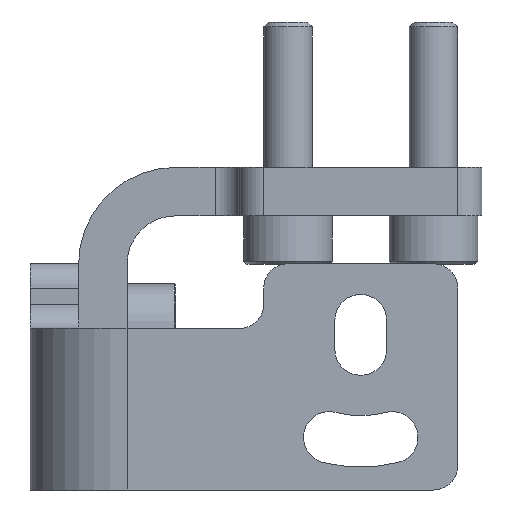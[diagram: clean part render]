
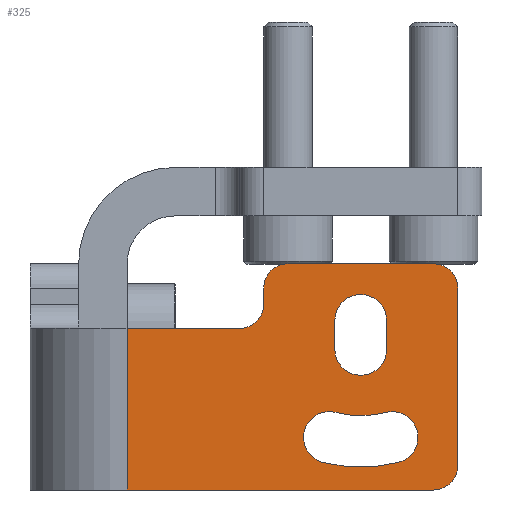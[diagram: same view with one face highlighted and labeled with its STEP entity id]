
A CAD part, front view. The second image highlights one B-rep face of the part: STEP entity #325.
In plain terms, the highlighted planar face has unit normal (0, -1, 0) as drawn and (0, 0, 1) by its records, which use the part's own axes.
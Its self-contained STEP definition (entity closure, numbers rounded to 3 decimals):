
#325 = ADVANCED_FACE( '', ( #525, #526, #527 ), #528, .F. );
#525 = FACE_BOUND( '', #789, .T. );
#526 = FACE_OUTER_BOUND( '', #790, .T. );
#527 = FACE_BOUND( '', #791, .T. );
#528 = PLANE( '', #792 );
#789 = EDGE_LOOP( '', ( #1333, #1334, #1335, #1336 ) );
#790 = EDGE_LOOP( '', ( #1337, #1338, #1339, #1340, #1341, #1342, #1343, #1344, #1345, #1346 ) );
#791 = EDGE_LOOP( '', ( #1347, #1348, #1349, #1350 ) );
#792 = AXIS2_PLACEMENT_3D( '', #1351, #1352, #1353 );
#1333 = ORIENTED_EDGE( '', *, *, #1819, .F. );
#1334 = ORIENTED_EDGE( '', *, *, #1820, .F. );
#1335 = ORIENTED_EDGE( '', *, *, #1821, .T. );
#1336 = ORIENTED_EDGE( '', *, *, #1822, .F. );
#1337 = ORIENTED_EDGE( '', *, *, #1823, .F. );
#1338 = ORIENTED_EDGE( '', *, *, #1824, .T. );
#1339 = ORIENTED_EDGE( '', *, *, #1825, .T. );
#1340 = ORIENTED_EDGE( '', *, *, #1826, .T. );
#1341 = ORIENTED_EDGE( '', *, *, #1827, .T. );
#1342 = ORIENTED_EDGE( '', *, *, #1828, .T. );
#1343 = ORIENTED_EDGE( '', *, *, #1829, .T. );
#1344 = ORIENTED_EDGE( '', *, *, #1830, .F. );
#1345 = ORIENTED_EDGE( '', *, *, #1831, .T. );
#1346 = ORIENTED_EDGE( '', *, *, #1832, .F. );
#1347 = ORIENTED_EDGE( '', *, *, #1815, .F. );
#1348 = ORIENTED_EDGE( '', *, *, #1833, .F. );
#1349 = ORIENTED_EDGE( '', *, *, #1834, .F. );
#1350 = ORIENTED_EDGE( '', *, *, #1817, .F. );
#1351 = CARTESIAN_POINT( '', ( -23.466, 3., 31.466 ) );
#1352 = DIRECTION( '', ( 0., 0., -1. ) );
#1353 = DIRECTION( '', ( -1., 0., 0. ) );
#1815 = EDGE_CURVE( '', #2150, #2152, #2153, .T. );
#1817 = EDGE_CURVE( '', #2152, #2155, #2156, .T. );
#1819 = EDGE_CURVE( '', #2158, #2159, #2160, .T. );
#1820 = EDGE_CURVE( '', #2161, #2158, #2162, .T. );
#1821 = EDGE_CURVE( '', #2161, #2163, #2164, .T. );
#1822 = EDGE_CURVE( '', #2159, #2163, #2165, .T. );
#1823 = EDGE_CURVE( '', #2166, #2167, #2168, .T. );
#1824 = EDGE_CURVE( '', #2166, #2169, #2170, .F. );
#1825 = EDGE_CURVE( '', #2169, #2171, #2172, .T. );
#1826 = EDGE_CURVE( '', #2171, #2173, #2174, .F. );
#1827 = EDGE_CURVE( '', #2173, #2175, #2176, .T. );
#1828 = EDGE_CURVE( '', #2175, #2177, #2178, .F. );
#1829 = EDGE_CURVE( '', #2177, #2179, #2180, .T. );
#1830 = EDGE_CURVE( '', #2181, #2179, #2182, .F. );
#1831 = EDGE_CURVE( '', #2181, #2183, #2184, .T. );
#1832 = EDGE_CURVE( '', #2167, #2183, #2185, .T. );
#1833 = EDGE_CURVE( '', #2186, #2150, #2187, .T. );
#1834 = EDGE_CURVE( '', #2155, #2186, #2188, .T. );
#2150 = VERTEX_POINT( '', #2620 );
#2152 = VERTEX_POINT( '', #2623 );
#2153 = CIRCLE( '', #2624, 1.6 );
#2155 = VERTEX_POINT( '', #2627 );
#2156 = LINE( '', #2628, #2629 );
#2158 = VERTEX_POINT( '', #2632 );
#2159 = VERTEX_POINT( '', #2633 );
#2160 = CIRCLE( '', #2634, 9.1 );
#2161 = VERTEX_POINT( '', #2635 );
#2162 = CIRCLE( '', #2636, 1.6 );
#2163 = VERTEX_POINT( '', #2637 );
#2164 = CIRCLE( '', #2638, 5.9 );
#2165 = CIRCLE( '', #2639, 1.6 );
#2166 = VERTEX_POINT( '', #2640 );
#2167 = VERTEX_POINT( '', #2641 );
#2168 = LINE( '', #2642, #2643 );
#2169 = VERTEX_POINT( '', #2644 );
#2170 = CIRCLE( '', #2645, 1.5 );
#2171 = VERTEX_POINT( '', #2646 );
#2172 = LINE( '', #2647, #2648 );
#2173 = VERTEX_POINT( '', #2649 );
#2174 = CIRCLE( '', #2650, 1.5 );
#2175 = VERTEX_POINT( '', #2651 );
#2176 = LINE( '', #2652, #2653 );
#2177 = VERTEX_POINT( '', #2654 );
#2178 = CIRCLE( '', #2655, 1.5 );
#2179 = VERTEX_POINT( '', #2656 );
#2180 = LINE( '', #2657, #2658 );
#2181 = VERTEX_POINT( '', #2659 );
#2182 = CIRCLE( '', #2660, 1.5 );
#2183 = VERTEX_POINT( '', #2661 );
#2184 = LINE( '', #2662, #2663 );
#2185 = LINE( '', #2664, #2665 );
#2186 = VERTEX_POINT( '', #2666 );
#2187 = LINE( '', #2667, #2668 );
#2188 = CIRCLE( '', #2669, 1.6 );
#2620 = CARTESIAN_POINT( '', ( -15.866, -5.7, 31.466 ) );
#2623 = CARTESIAN_POINT( '', ( -19.066, -5.7, 31.466 ) );
#2624 = AXIS2_PLACEMENT_3D( '', #3107, #3108, #3109 );
#2627 = CARTESIAN_POINT( '', ( -19.066, -7.5, 31.466 ) );
#2628 = CARTESIAN_POINT( '', ( -19.066, -5.7, 31.466 ) );
#2629 = VECTOR( '', #3111, 1000. );
#2632 = CARTESIAN_POINT( '', ( -15.123, 1.293, 31.466 ) );
#2633 = CARTESIAN_POINT( '', ( -19.821, 1.29, 31.466 ) );
#2634 = AXIS2_PLACEMENT_3D( '', #3113, #3114, #3115 );
#2635 = CARTESIAN_POINT( '', ( -15.939, -1.801, 31.466 ) );
#2636 = AXIS2_PLACEMENT_3D( '', #3116, #3117, #3118 );
#2637 = CARTESIAN_POINT( '', ( -19.001, -1.803, 31.466 ) );
#2638 = AXIS2_PLACEMENT_3D( '', #3119, #3120, #3121 );
#2639 = AXIS2_PLACEMENT_3D( '', #3122, #3123, #3124 );
#2640 = CARTESIAN_POINT( '', ( -21.966, 3., 31.466 ) );
#2641 = CARTESIAN_POINT( '', ( -3., 3., 31.466 ) );
#2642 = CARTESIAN_POINT( '', ( -23.466, 3., 31.466 ) );
#2643 = VECTOR( '', #3125, 1000. );
#2644 = CARTESIAN_POINT( '', ( -23.466, 1.5, 31.466 ) );
#2645 = AXIS2_PLACEMENT_3D( '', #3126, #3127, #3128 );
#2646 = CARTESIAN_POINT( '', ( -23.466, -9.5, 31.466 ) );
#2647 = CARTESIAN_POINT( '', ( -23.466, 3., 31.466 ) );
#2648 = VECTOR( '', #3129, 1000. );
#2649 = CARTESIAN_POINT( '', ( -21.966, -11., 31.466 ) );
#2650 = AXIS2_PLACEMENT_3D( '', #3130, #3131, #3132 );
#2651 = CARTESIAN_POINT( '', ( -12.966, -11., 31.466 ) );
#2652 = CARTESIAN_POINT( '', ( -23.466, -11., 31.466 ) );
#2653 = VECTOR( '', #3133, 1000. );
#2654 = CARTESIAN_POINT( '', ( -11.466, -9.5, 31.466 ) );
#2655 = AXIS2_PLACEMENT_3D( '', #3134, #3135, #3136 );
#2656 = CARTESIAN_POINT( '', ( -11.466, -8.5, 31.466 ) );
#2657 = CARTESIAN_POINT( '', ( -11.466, 3., 31.466 ) );
#2658 = VECTOR( '', #3137, 1000. );
#2659 = CARTESIAN_POINT( '', ( -9.966, -7., 31.466 ) );
#2660 = AXIS2_PLACEMENT_3D( '', #3138, #3139, #3140 );
#2661 = CARTESIAN_POINT( '', ( -3., -7., 31.466 ) );
#2662 = CARTESIAN_POINT( '', ( -23.466, -7., 31.466 ) );
#2663 = VECTOR( '', #3141, 1000. );
#2664 = CARTESIAN_POINT( '', ( -3., 3., 31.466 ) );
#2665 = VECTOR( '', #3142, 1000. );
#2666 = CARTESIAN_POINT( '', ( -15.866, -7.5, 31.466 ) );
#2667 = CARTESIAN_POINT( '', ( -15.866, -7.5, 31.466 ) );
#2668 = VECTOR( '', #3143, 1000. );
#2669 = AXIS2_PLACEMENT_3D( '', #3144, #3145, #3146 );
#3107 = CARTESIAN_POINT( '', ( -17.466, -5.7, 31.466 ) );
#3108 = DIRECTION( '', ( 0., 0., 1. ) );
#3109 = DIRECTION( '', ( 1., 0., 0. ) );
#3111 = DIRECTION( '', ( 0., -1., 0. ) );
#3113 = CARTESIAN_POINT( '', ( -17.466, -7.5, 31.466 ) );
#3114 = DIRECTION( '', ( 0., 0., 1. ) );
#3115 = DIRECTION( '', ( 1., 0., 0. ) );
#3116 = CARTESIAN_POINT( '', ( -15.525, -0.256, 31.466 ) );
#3117 = DIRECTION( '', ( 0., 0., 1. ) );
#3118 = DIRECTION( '', ( 1., 0., 0. ) );
#3119 = CARTESIAN_POINT( '', ( -17.466, -7.5, 31.466 ) );
#3120 = DIRECTION( '', ( 0., 0., 1. ) );
#3121 = DIRECTION( '', ( 1., 0., 0. ) );
#3122 = CARTESIAN_POINT( '', ( -19.407, -0.256, 31.466 ) );
#3123 = DIRECTION( '', ( 0., 0., 1. ) );
#3124 = DIRECTION( '', ( 1., 0., 0. ) );
#3125 = DIRECTION( '', ( 1., 0., 0. ) );
#3126 = CARTESIAN_POINT( '', ( -21.966, 1.5, 31.466 ) );
#3127 = DIRECTION( '', ( 0., 0., -1. ) );
#3128 = DIRECTION( '', ( -1., 0., 0. ) );
#3129 = DIRECTION( '', ( 0., -1., 0. ) );
#3130 = CARTESIAN_POINT( '', ( -21.966, -9.5, 31.466 ) );
#3131 = DIRECTION( '', ( 0., 0., -1. ) );
#3132 = DIRECTION( '', ( -1., 0., 0. ) );
#3133 = DIRECTION( '', ( 1., 0., 0. ) );
#3134 = CARTESIAN_POINT( '', ( -12.966, -9.5, 31.466 ) );
#3135 = DIRECTION( '', ( 0., 0., -1. ) );
#3136 = DIRECTION( '', ( -1., 0., 0. ) );
#3137 = DIRECTION( '', ( 0., 1., 0. ) );
#3138 = CARTESIAN_POINT( '', ( -9.966, -8.5, 31.466 ) );
#3139 = DIRECTION( '', ( 0., 0., -1. ) );
#3140 = DIRECTION( '', ( -1., 0., 0. ) );
#3141 = DIRECTION( '', ( 1., 0., 0. ) );
#3142 = DIRECTION( '', ( 0., -1., 0. ) );
#3143 = DIRECTION( '', ( 0., 1., 0. ) );
#3144 = CARTESIAN_POINT( '', ( -17.466, -7.5, 31.466 ) );
#3145 = DIRECTION( '', ( 0., 0., 1. ) );
#3146 = DIRECTION( '', ( 1., 0., 0. ) );
